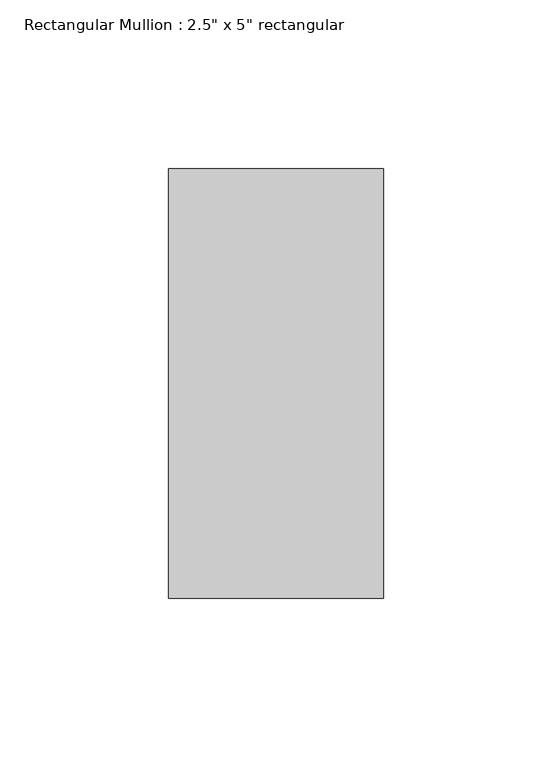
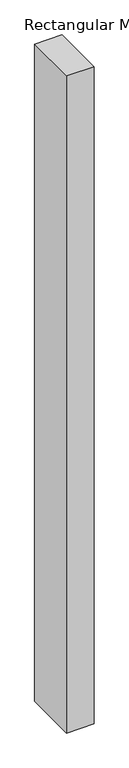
"""IFC4 building model written with IfcOpenShell, lengths in millimetres: member geometry."""

import ifcopenshell
import ifcopenshell.guid

model = None  # the IFC model being written
_history = None  # IfcOwnerHistory: only IFC2X3 demands one
_inside = {}  # id of a spatial element -> (the spatial element, [elements in it])
_under = {}  # id of a project, library or spatial element -> (it, [spatial elements below it])
_declared = {}  # id of a project -> (the project, [libraries it declares])
_typed = {}  # id of a type object -> (the type object, [elements of that type])
_made_of = {}  # id of a material, layer set ... -> (it, [elements and type objects made of it])


def new_model(schema):
    """Start an empty IFC model of exactly this schema.

    Asked for "IFC4X3", IfcOpenShell would pick the latest addendum, in which some entities
    have other attributes; the version numbers below select the first issue.
    IFC2X3 requires an IfcOwnerHistory on every rooted entity: one is made here for all.
    """
    global model, _history
    if schema == "IFC4X3":
        model = ifcopenshell.file(schema_version=(4, 3, 0, 0))
    else:
        model = ifcopenshell.file(schema=schema)
    _inside.clear()
    _under.clear()
    _declared.clear()
    _typed.clear()
    _made_of.clear()
    _history = None
    if model.schema == "IFC2X3":
        org = make("IfcOrganization", Name="unknown")
        user = make(
            "IfcPersonAndOrganization",
            ThePerson=make("IfcPerson", FamilyName="unknown"),
            TheOrganization=org,
        )
        app = make(
            "IfcApplication",
            ApplicationDeveloper=org,
            Version="unknown",
            ApplicationFullName="unknown",
            ApplicationIdentifier="unknown",
        )
        _history = make(
            "IfcOwnerHistory",
            OwningUser=user,
            OwningApplication=app,
            ChangeAction="ADDED",
            CreationDate=0,
        )
    return model


def make(cls, **values):
    """One entity of the class cls with the attributes given. An attribute that is None is left unset."""
    return model.create_entity(
        cls, **{name: value for name, value in values.items() if value is not None}
    )


def rooted(cls, **values):
    """An entity with a GlobalId (a new one), such as an element, a storey or a relation."""
    return make(cls, GlobalId=ifcopenshell.guid.new(), OwnerHistory=_history, **values)


def si_unit(unit_type, name, prefix=None):
    """IfcSIUnit, for example si_unit("LENGTHUNIT", "METRE", prefix="MILLI")."""
    return make("IfcSIUnit", UnitType=unit_type, Prefix=prefix, Name=name)


def assignment(units):
    """IfcUnitAssignment: the units of a project."""
    return None if units is None else make("IfcUnitAssignment", Units=units)


def point(xyz):
    """IfcCartesianPoint."""
    return None if xyz is None else make("IfcCartesianPoint", Coordinates=xyz)


def direction(xyz):
    """IfcDirection."""
    return None if xyz is None else make("IfcDirection", DirectionRatios=xyz)


def frame(location, z_axis=None, x_axis=None):
    """IfcAxis2Placement3D, a coordinate frame: its origin and axes. An axis left out is left unset."""
    return make(
        "IfcAxis2Placement3D",
        Location=point(location),
        Axis=direction(z_axis),
        RefDirection=direction(x_axis),
    )


def origin():
    """The frame at (0, 0, 0) with its axes left unset."""
    return frame((0.0, 0.0, 0.0))


def place(relative_to, where):
    """IfcLocalPlacement: puts the frame where relative to a parent placement (None: the world)."""
    return make(
        "IfcLocalPlacement", PlacementRelTo=relative_to, RelativePlacement=where
    )


def context(
    kind, dimensions, precision=None, world=None, true_north=None, identifier=None
):
    """IfcGeometricRepresentationContext, for example the 3D "Model" context."""
    return make(
        "IfcGeometricRepresentationContext",
        ContextIdentifier=identifier,
        ContextType=kind,
        CoordinateSpaceDimension=dimensions,
        Precision=precision,
        WorldCoordinateSystem=world,
        TrueNorth=true_north,
    )


def project(units=None, contexts=None):
    """IfcProject with its units and contexts."""
    return rooted(
        "IfcProject",
        Name="project",
        RepresentationContexts=contexts,
        UnitsInContext=assignment(units),
    )


def spatial(cls, under=None, at=None, **own):
    """A site, building, storey or space (cls), placed at a placement, below another one or the project."""
    s = rooted(cls, ObjectPlacement=at, **own)
    if under is not None:
        _under.setdefault(under.id(), (under, []))[1].append(s)
    return s


def polyline(points):
    """IfcPolyline through the points."""
    return make("IfcPolyline", Points=[point(p) for p in points])


def outline(outer, holes=None, kind="AREA"):
    """IfcArbitraryClosedProfileDef: a profile drawn as a closed curve; with holes, ...WithVoids."""
    if holes is None:
        return make("IfcArbitraryClosedProfileDef", ProfileType=kind, OuterCurve=outer)
    return make(
        "IfcArbitraryProfileDefWithVoids",
        ProfileType=kind,
        OuterCurve=outer,
        InnerCurves=holes,
    )


def extrude(swept, where, along, depth):
    """IfcExtrudedAreaSolid: the profile swept, set in the frame where, extruded along a direction by depth."""
    return make(
        "IfcExtrudedAreaSolid",
        SweptArea=swept,
        Position=where,
        ExtrudedDirection=direction(along),
        Depth=depth,
    )


def shape(context_of_items, identifier, shape_type, items):
    """IfcShapeRepresentation: the items that make up one representation, for example the "Body"."""
    return make(
        "IfcShapeRepresentation",
        ContextOfItems=context_of_items,
        RepresentationIdentifier=identifier,
        RepresentationType=shape_type,
        Items=items,
    )


def source(mapping_origin, context_of_items, identifier, shape_type, items):
    """IfcRepresentationMap: a shape defined once, which mapped items show again and again."""
    return make(
        "IfcRepresentationMap",
        MappingOrigin=mapping_origin,
        MappedRepresentation=shape(context_of_items, identifier, shape_type, items),
    )


def transform(
    local_origin,
    x_axis=None,
    y_axis=None,
    z_axis=None,
    scale=None,
    scale2=None,
    scale3=None,
    uniform=True,
):
    """IfcCartesianTransformationOperator3D, or its non-uniform kind. x_axis, y_axis, z_axis: its Axis1, 2, 3."""
    if uniform:
        return make(
            "IfcCartesianTransformationOperator3D",
            Axis1=direction(x_axis),
            Axis2=direction(y_axis),
            LocalOrigin=point(local_origin),
            Scale=scale,
            Axis3=direction(z_axis),
        )
    return make(
        "IfcCartesianTransformationOperator3DnonUniform",
        Axis1=direction(x_axis),
        Axis2=direction(y_axis),
        LocalOrigin=point(local_origin),
        Scale=scale,
        Axis3=direction(z_axis),
        Scale2=scale2,
        Scale3=scale3,
    )


def mapped(mapping_source, mapping_target):
    """IfcMappedItem: shows the shape of a source again, moved by a transform."""
    return make(
        "IfcMappedItem", MappingSource=mapping_source, MappingTarget=mapping_target
    )


def made_of(thing, what):
    """Note that an element or type object is made of a material, layer set ...; save() writes the relation."""
    if what is not None:
        _made_of.setdefault(what.id(), (what, []))[1].append(thing)
    return thing


def element(
    cls,
    number,
    at=None,
    inside=None,
    cuts=None,
    type_object=None,
    material=None,
    context=None,
    identifier="Body",
    shape_type=None,
    held_by="IfcProductDefinitionShape",
    body=None,
    shapes=None,
    **own,
):
    """One element of the class cls, such as IfcWall. Its Tag is "e" and its number.

    at: its placement. inside: the storey or other place that contains it. cuts: it is an
    opening in that element (IfcRelVoidsElement). A single representation is given by context,
    identifier, shape_type and body (its items); several are given by shapes. held_by: the class
    of the entity that holds the representations. save() writes the other relations.
    """
    e = rooted(cls, Tag="e%d" % number, ObjectPlacement=at, **own)
    if body is not None:
        shapes = [shape(context, identifier, shape_type, body)]
    if shapes is not None:
        e.Representation = make(held_by, Representations=shapes)
    if inside is not None:
        _inside.setdefault(inside.id(), (inside, []))[1].append(e)
    if cuts is not None:
        rooted(
            "IfcRelVoidsElement", RelatingBuildingElement=cuts, RelatedOpeningElement=e
        )
    if type_object is not None:
        _typed.setdefault(type_object.id(), (type_object, []))[1].append(e)
    return made_of(e, material)


def aggregate(whole, parts):
    """IfcRelAggregates: a whole, such as a stair, and the parts it consists of."""
    return rooted("IfcRelAggregates", RelatingObject=whole, RelatedObjects=parts)


def save(model, path):
    """Write the relations noted so far, then the file.

    IfcRelAggregates (storeys below a building ...), IfcRelContainedInSpatialStructure (elements
    in a storey), IfcRelDefinesByType, IfcRelAssociatesMaterial and IfcRelDeclares: one each for
    every whole, place, type object, material and project.
    """
    for whole, parts in _under.values():
        aggregate(whole, parts)
    for where, things in _inside.values():
        rooted(
            "IfcRelContainedInSpatialStructure",
            RelatedElements=things,
            RelatingStructure=where,
        )
    for kind, things in _typed.values():
        rooted("IfcRelDefinesByType", RelatedObjects=things, RelatingType=kind)
    for what, things in _made_of.values():
        rooted("IfcRelAssociatesMaterial", RelatedObjects=things, RelatingMaterial=what)
    for by, libraries in _declared.values():
        rooted("IfcRelDeclares", RelatingContext=by, RelatedDefinitions=libraries)
    model.write(path)


def member_86815d37(model_context):
    return source(origin(), model_context, "Body", "SweptSolid", [
        extrude(outline(polyline([(31.75, 63.5), (31.75, -63.5), (-31.75, -63.5), (-31.75, 63.5), (31.75, 63.5)])), frame((0.0, 0.0, -1600.9488256), z_axis=(0.0, 0.0, 1.0), x_axis=(1.0, 0.0, 0.0)), (0.0, 0.0, 1.0), 1600.9488256),
    ])


if __name__ == "__main__":
    model = new_model("IFC4")
    model_context = context("Model", 3, world=origin())
    ifc_project = project(units=[si_unit("LENGTHUNIT", "METRE", prefix="MILLI")], contexts=[model_context])
    site = spatial("IfcSite", under=ifc_project)
    building = spatial("IfcBuilding", under=site)
    placement = place(None, origin())
    member_shape = member_86815d37(model_context)
    element("IfcMember", 1, ObjectType="Rectangular Mullion : 2.5\" x 5\" rectangular", at=placement, inside=building, context=model_context, shape_type="MappedRepresentation", body=[
        mapped(member_shape, transform((0.0, 0.0, 0.0), x_axis=(1.0, 0.0, 0.0), y_axis=(0.0, 1.0, 0.0), z_axis=(0.0, 0.0, 1.0))),
    ])
    save(model, "model.ifc")
